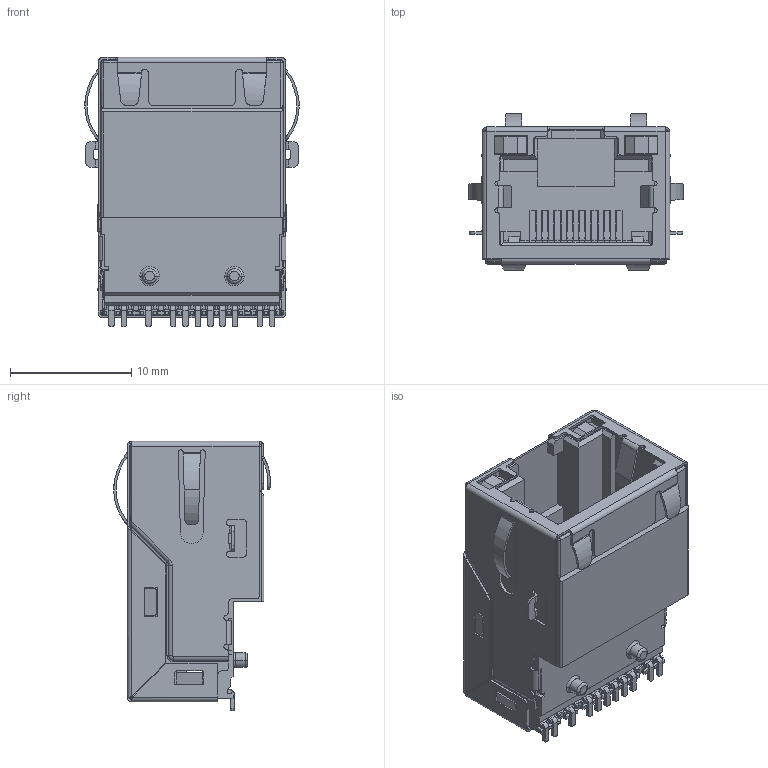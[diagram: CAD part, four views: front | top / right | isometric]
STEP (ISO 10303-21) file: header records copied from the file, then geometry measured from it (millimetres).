
FILE_DESCRIPTION((''),'2;1');
FILE_NAME('DGKYD211B227DB1A7CBS057','2023-09-06T14:20:17',('Administrator'),(''),'CREO PARAMETRIC BY PTC INC, 2019010','CREO PARAMETRIC BY PTC INC, 2019010','');
FILE_SCHEMA(('CONFIG_CONTROL_DESIGN'));
Length unit declared in the file: millimetre
Products named in the file (1): DGKYD211B227DB1A7CBS057
Bounding box: 17.7 x 12.93 x 22.22 mm (x, y, z)
Volume: 1456.9 mm3; surface area: 4933.2 mm2
Topology: 1 solids, 1 shells, 1545 faces, 4544 edges, 2936 vertices
Faces by surface type: plane 1106, cylinder 361, bspline 54, torus 18, sphere 4, extrusion 2
Entity records: 52567 total; most frequent: CARTESIAN_POINT 11364, ORIENTED_EDGE 9080, DIRECTION 7966, EDGE_CURVE 4540, VECTOR 3668, LINE 3666, VERTEX_POINT 2936, AXIS2_PLACEMENT_3D 2149
